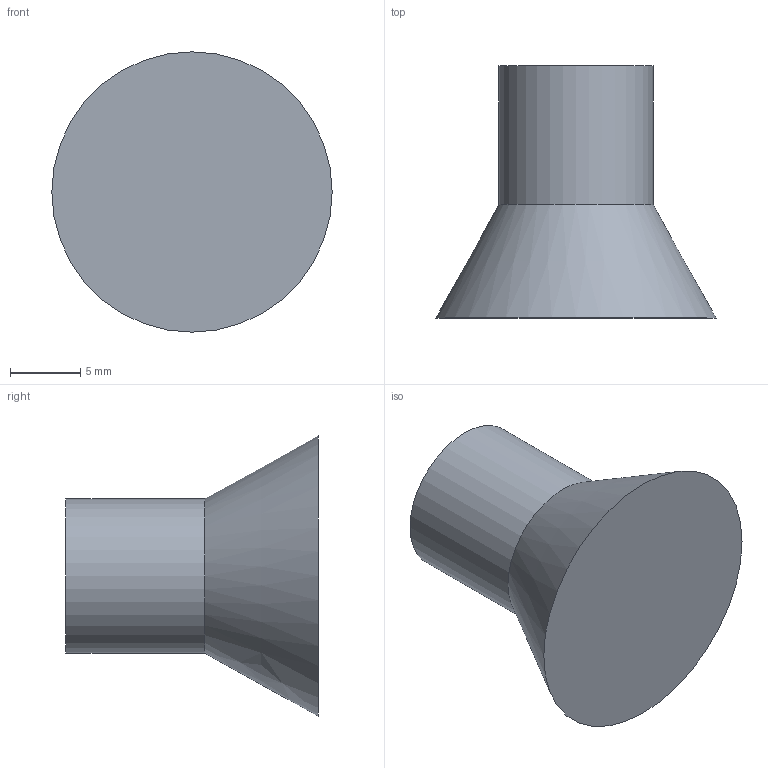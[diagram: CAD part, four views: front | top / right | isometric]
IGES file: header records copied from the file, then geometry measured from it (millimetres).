
Start section: Data from Parasolid IGES Translator 15.0.47, Copyright(c) 2006 Siemens P LM Software. All Rights Reserved.
Global section: file name: 9070744.igs; native system:  By UGS Corp.; preprocessor: XPlus GENERIC/IGES 3.0; author: Noname; organization: Noname; date: 20140122.174710; units: millimetre
Bounding box: 20 x 18 x 20 mm (x, y, z)
Surface area: 1312.5 mm2 (no closed solid volume)
Topology: 0 solids, 0 shells, 6 faces, 18 edges, 14 vertices
Faces by surface type: extrusion 3, revolution 3
